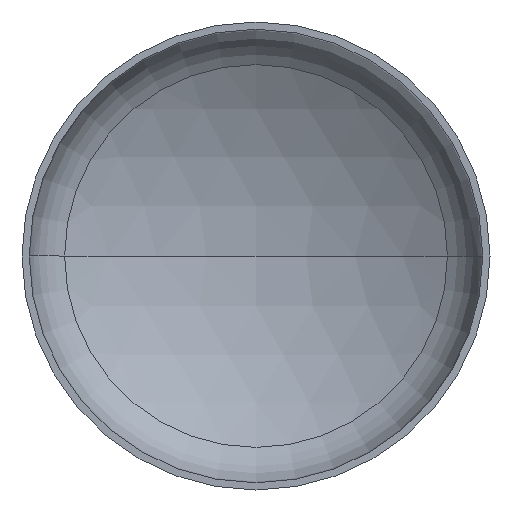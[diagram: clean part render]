
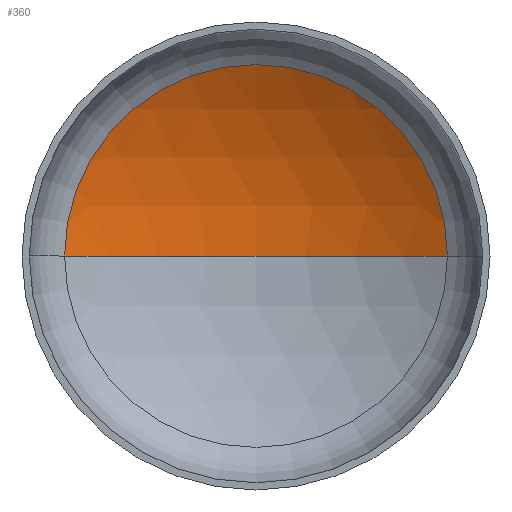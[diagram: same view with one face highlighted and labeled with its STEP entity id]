
A CAD part, front view. The second image highlights one B-rep face of the part: STEP entity #360.
In plain terms, the highlighted spherical face has radius 3600 mm.
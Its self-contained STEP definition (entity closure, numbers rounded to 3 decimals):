
#12 = AXIS2_PLACEMENT_3D ( 'NONE', #163, #392, #367 ) ;
#15 = AXIS2_PLACEMENT_3D ( 'NONE', #298, #393, #248 ) ;
#20 = EDGE_LOOP ( 'NONE', ( #38, #32, #145 ) ) ;
#26 = CARTESIAN_POINT ( 'NONE',  ( 0., -2376.758, 0. ) ) ;
#32 = ORIENTED_EDGE ( 'NONE', *, *, #340, .T. ) ;
#38 = ORIENTED_EDGE ( 'NONE', *, *, #385, .F. ) ;
#75 = VERTEX_POINT ( 'NONE', #292 ) ;
#85 = VERTEX_POINT ( 'NONE', #268 ) ;
#110 = VERTEX_POINT ( 'NONE', #280 ) ;
#111 = DIRECTION ( 'NONE',  ( 1., 0., 0. ) ) ;
#145 = ORIENTED_EDGE ( 'NONE', *, *, #338, .T. ) ;
#158 = CARTESIAN_POINT ( 'NONE',  ( 0., -2376.758, 0. ) ) ;
#162 = DIRECTION ( 'NONE',  ( 0., 0., -1. ) ) ;
#163 = CARTESIAN_POINT ( 'NONE',  ( 0., -2376.758, 0. ) ) ;
#248 = DIRECTION ( 'NONE',  ( 1., 0., 0. ) ) ;
#251 = DIRECTION ( 'NONE',  ( -1., 0., 0. ) ) ;
#266 = AXIS2_PLACEMENT_3D ( 'NONE', #158, #162, #251 ) ;
#268 = CARTESIAN_POINT ( 'NONE',  ( 0., 1223.242, 0. ) ) ;
#274 = FACE_OUTER_BOUND ( 'NONE', #20, .T. ) ;
#275 = DIRECTION ( 'NONE',  ( 0., 0., 1. ) ) ;
#280 = CARTESIAN_POINT ( 'NONE',  ( 1840.275, 717.331, 0. ) ) ;
#292 = CARTESIAN_POINT ( 'NONE',  ( -1840.275, 717.331, 0. ) ) ;
#298 = CARTESIAN_POINT ( 'NONE',  ( 0., 717.331, 0. ) ) ;
#325 = AXIS2_PLACEMENT_3D ( 'NONE', #26, #275, #111 ) ;
#338 = EDGE_CURVE ( 'NONE', #110, #75, #349, .T. ) ;
#340 = EDGE_CURVE ( 'NONE', #85, #110, #409, .T. ) ;
#349 = CIRCLE ( 'NONE', #15, 1840.275 ) ;
#360 = ADVANCED_FACE ( 'NONE', ( #274 ), #395, .F. ) ;
#367 = DIRECTION ( 'NONE',  ( -1., 0., 0. ) ) ;
#385 = EDGE_CURVE ( 'NONE', #85, #75, #387, .T. ) ;
#387 = CIRCLE ( 'NONE', #325, 3600. ) ;
#392 = DIRECTION ( 'NONE',  ( 0., 0., -1. ) ) ;
#393 = DIRECTION ( 'NONE',  ( 0., -1., 0. ) ) ;
#395 = SPHERICAL_SURFACE ( 'NONE', #266, 3600. ) ;
#409 = CIRCLE ( 'NONE', #12, 3600. ) ;
